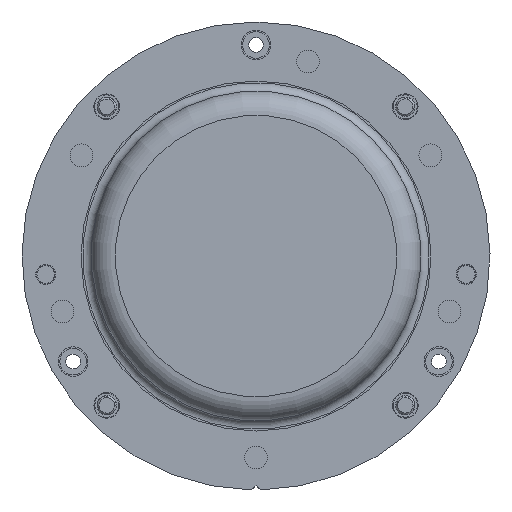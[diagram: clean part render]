
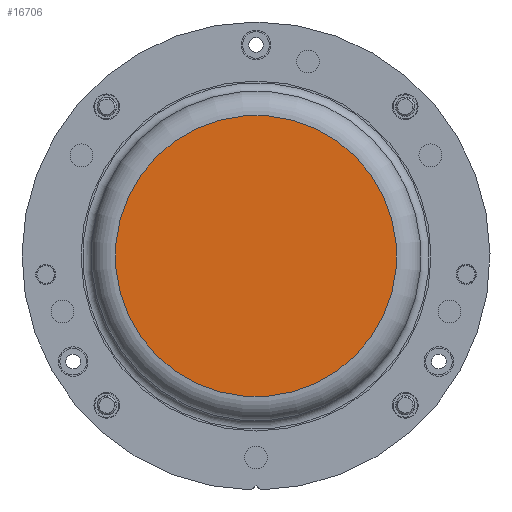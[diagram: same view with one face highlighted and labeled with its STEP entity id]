
A CAD part, front view. The second image highlights one B-rep face of the part: STEP entity #16706.
In plain terms, the highlighted planar face has unit normal (0, -1, 0).
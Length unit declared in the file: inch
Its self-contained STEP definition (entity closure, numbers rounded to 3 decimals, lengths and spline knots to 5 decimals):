
#625 = AXIS2_PLACEMENT_3D ( 'NONE', #1826, #25651, #5239 ) ;
#1826 = CARTESIAN_POINT ( 'NONE',  ( -0.00002, -1.835, -0.00025 ) ) ;
#2272 = EDGE_LOOP ( 'NONE', ( #34084 ) ) ;
#5239 = DIRECTION ( 'NONE',  ( 0.707, 0., 0.707 ) ) ;
#7993 = VERTEX_POINT ( 'NONE', #37807 ) ;
#14227 = CIRCLE ( 'NONE', #29279, 1.0125 ) ;
#16706 = ADVANCED_FACE ( 'NONE', ( #28383 ), #18871, .T. ) ;
#17384 = CARTESIAN_POINT ( 'NONE',  ( -0.00002, -1.835, -0.00025 ) ) ;
#18871 = PLANE ( 'NONE',  #625 ) ;
#20843 = DIRECTION ( 'NONE',  ( 0.707, 0., 0.707 ) ) ;
#22624 = EDGE_CURVE ( 'NONE', #7993, #7993, #14227, .T. ) ;
#25651 = DIRECTION ( 'NONE',  ( 0., -1., 0. ) ) ;
#28383 = FACE_OUTER_BOUND ( 'NONE', #2272, .T. ) ;
#29279 = AXIS2_PLACEMENT_3D ( 'NONE', #17384, #41198, #20843 ) ;
#34084 = ORIENTED_EDGE ( 'NONE', *, *, #22624, .T. ) ;
#37807 = CARTESIAN_POINT ( 'NONE',  ( 0.71581, -1.835, 0.71581 ) ) ;
#41198 = DIRECTION ( 'NONE',  ( 0., -1., 0. ) ) ;
